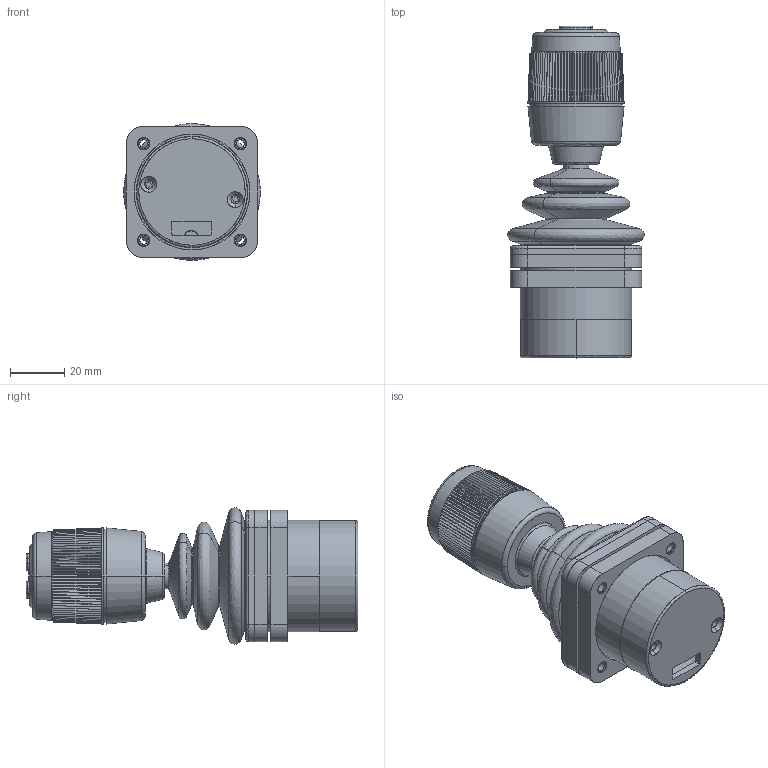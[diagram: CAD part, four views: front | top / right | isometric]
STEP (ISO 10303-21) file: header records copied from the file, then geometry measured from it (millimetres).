
FILE_DESCRIPTION(('FreeCAD Model'),'2;1');
FILE_NAME('Open CASCADE Shape Model','2024-06-13T09:39:44',(''),(''), 'Open CASCADE STEP processor 7.6','FreeCAD','Unknown');
FILE_SCHEMA(('AUTOMOTIVE_DESIGN { 1 0 10303 214 1 1 1 1 }'));
Length unit declared in the file: millimetre
Products named in the file (3): Unbenannt; TRY100_551A__1; TRY100_CAN
Assembly tree (2 placements, depth 2):
  Unbenannt
    TRY100_551A__1
    TRY100_CAN
Bounding box: 50.13 x 121.81 x 50.13 mm (x, y, z)
Surface area: 52952.4 mm2 (no closed solid volume)
Topology: 0 solids, 1051 shells, 1051 faces, 13581 edges, 13577 vertices
Faces by surface type: bspline 574, revolution 477
Entity records: 139603 total; most frequent: CARTESIAN_POINT 59276, ORIENTED_EDGE 13578, EDGE_CURVE 13578, VERTEX_POINT 13578, B_SPLINE_CURVE_WITH_KNOTS 9905, DIRECTION 5611, LINE 2600, VECTOR 2600
